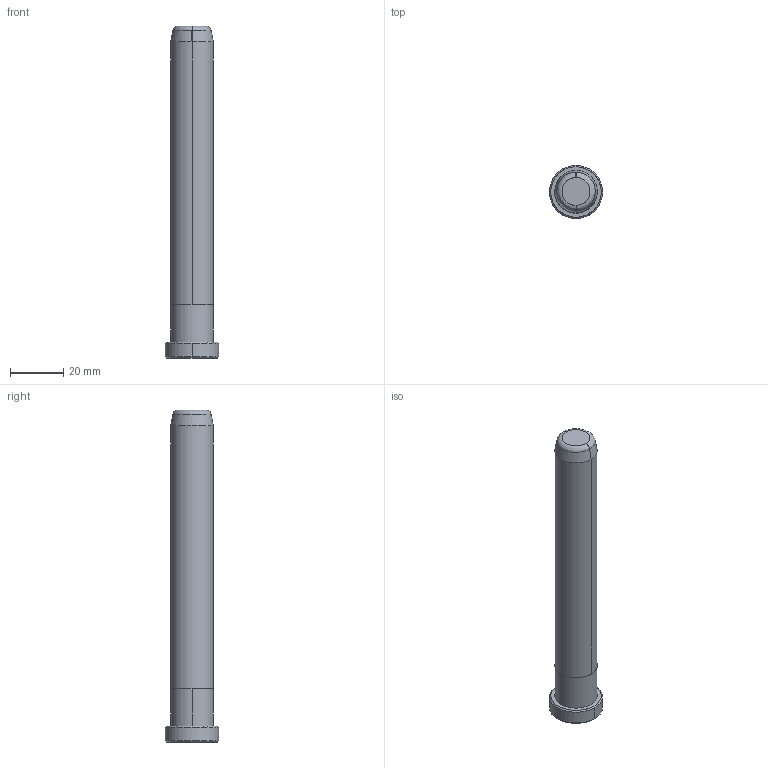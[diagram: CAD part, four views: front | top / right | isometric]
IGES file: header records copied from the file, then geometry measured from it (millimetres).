
Start section: START RECORD GO HERE.
Global section: file name: B85816125.igs; native system: DASSAULT SYSTEMES CATIA V5 R20 - www.3ds.com; preprocessor: CATIA Version 5 Release 20 ; author: Utente; organization: NB04-ASUS; date: 20200419.205028; units: millimetre
Bounding box: 20 x 20 x 125 mm (x, y, z)
Surface area: 6859.1 mm2 (no closed solid volume)
Topology: 0 solids, 0 shells, 20 faces, 80 edges, 80 vertices
Faces by surface type: revolution 16, plane 4
